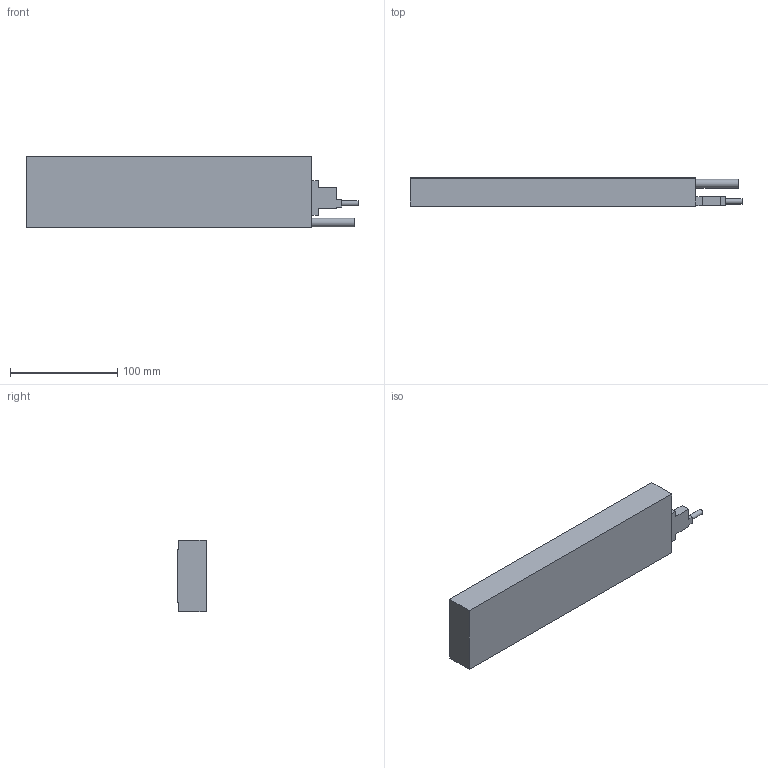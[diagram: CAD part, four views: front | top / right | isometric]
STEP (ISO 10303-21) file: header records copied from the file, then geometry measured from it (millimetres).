
FILE_DESCRIPTION(/* description */ ('STEP AP242 Edition 2','CAx-IF Rec.Pracs.---Representation and Presentation of Product Manufacturing Information (PMI)---4.0---2014-10-13','CAx-IF Rec.Pracs.---3D Tessellated Geometry---0.4---2014-09-14','2;1','CAx-IF Rec.Pracs.---User Defined Attributes---1.5---2016-08-15'),/* implementation_level */ '2;1');
FILE_NAME(/* name */ 'CM40S (2)',/* time_stamp */ '2026-04-13T00:44:04Z',/* author */ (''),/* organization */ (''),/* preprocessor_version */ 'ST-DEVELOPER v20',/* originating_system */ 'ONSHAPE BY PTC INC, 1.213',/* authorisation */ ' ');
FILE_SCHEMA (('AP242_MANAGED_MODEL_BASED_3D_ENGINEERING_MIM_LF { 1 0 10303 442 3 1 4 }'));
Length unit declared in the file: metre
Products named in the file (1): CM40S
Bounding box: 309 x 26.5 x 67 mm (x, y, z)
Volume: 474436.5 mm3; surface area: 58623 mm2
Topology: 1 solids, 2 shells, 80 faces, 196 edges, 125 vertices
Faces by surface type: plane 35, cylinder 27, cone 18
Full cylindrical faces by diameter (mm): 2.5 x2, 3.4 x2, 4.2 x16, 4.9 x2, 8 x1
Entity records: 2046 total; most frequent: DIRECTION 352, CARTESIAN_POINT 339, ORIENTED_EDGE 270, FACE_BOUND 144, AXIS2_PLACEMENT_3D 136, EDGE_CURVE 135, EDGE_LOOP 126, VERTEX_POINT 123
